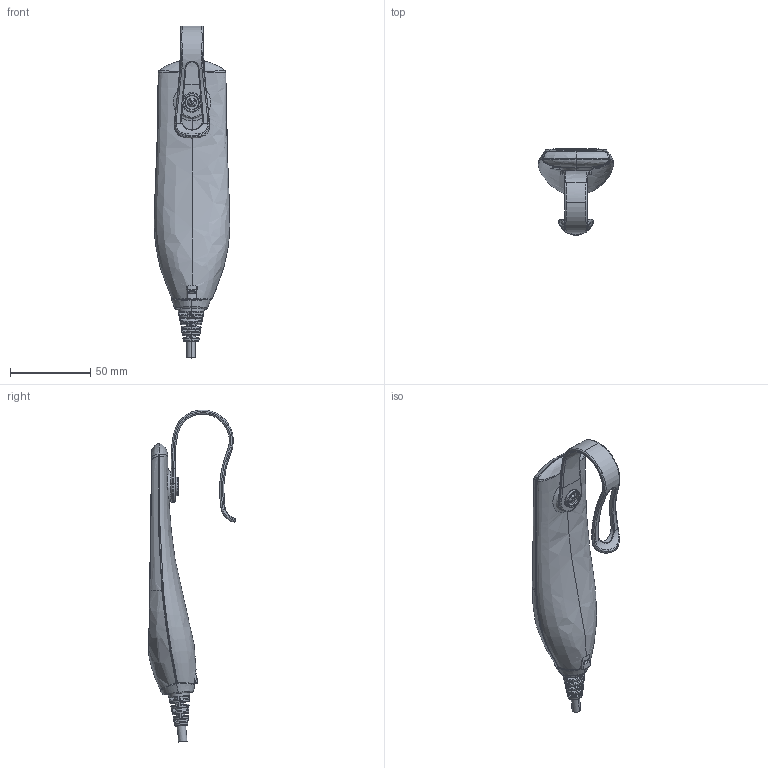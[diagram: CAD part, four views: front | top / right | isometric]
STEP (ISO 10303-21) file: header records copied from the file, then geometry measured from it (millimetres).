
FILE_DESCRIPTION (( 'STEP AP203' ), '1' );
FILE_NAME ('3D_TMH13.STEP', '2019-03-14T08:52:43', ( '' ), ( '' ), 'SwSTEP 2.0', 'SolidWorks 2015', '' );
FILE_SCHEMA (( 'CONFIG_CONTROL_DESIGN' ));
Length unit declared in the file: millimetre
Products named in the file (1): 3D_TMH13
Bounding box: 47.04 x 53.96 x 206.42 mm (x, y, z)
Volume: 99838.2 mm3; surface area: 44240.4 mm2
Topology: 7 solids, 7 shells, 425 faces, 1125 edges, 728 vertices
Faces by surface type: bspline 258, plane 104, cylinder 59, cone 2, sphere 2
Entity records: 37705 total; most frequent: CARTESIAN_POINT 29397, ORIENTED_EDGE 2232, EDGE_CURVE 1116, DIRECTION 926, VERTEX_POINT 726, B_SPLINE_CURVE_WITH_KNOTS 625, EDGE_LOOP 446, ADVANCED_FACE 424
